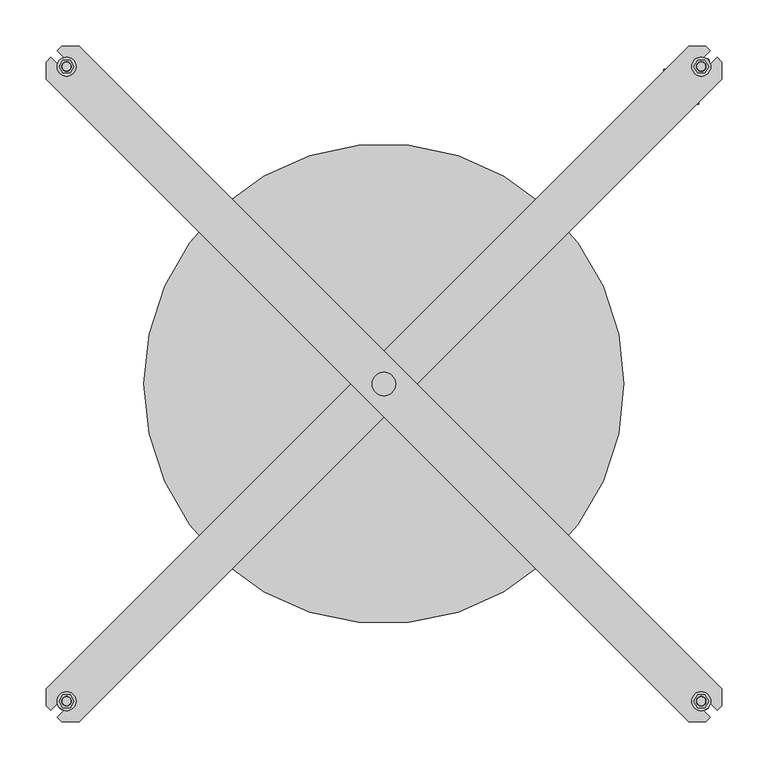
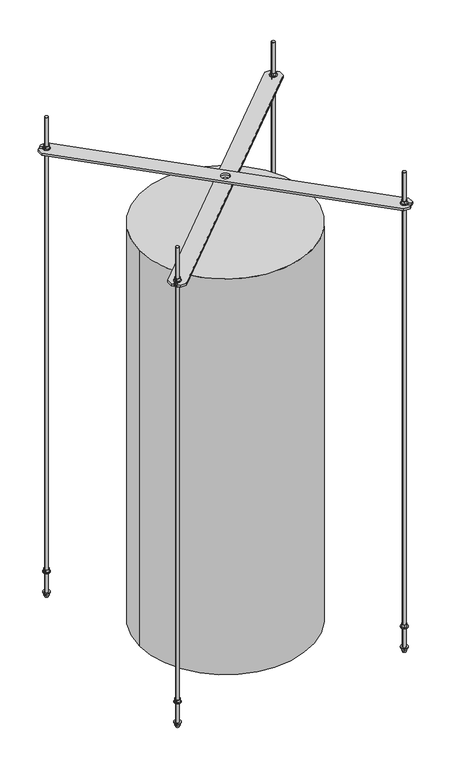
"""IFC4 building model written with IfcOpenShell, lengths in millimetres: proxy geometry, 50 SWHP : #50-SWHP."""

from ifc_helpers import new_model, si_unit, point, frame, frame_2d, origin, origin_2d, place, context, project, spatial, polyline, circle_curve, trimmed, segment, composite_curve, outline, extrude, source, transform, mapped, element, save
from ifc_brep_helpers import plane_surface, cylinder_surface, revolved_surface, advanced_brep


def generic_models_e5ff88b9(model_context):
    return source(origin(), model_context, "Body", "SolidModel", [
        extrude(outline(composite_curve([segment(trimmed(circle_curve(frame_2d((344.3986, 344.3986)), 10.31875), [point((334.07985, 344.3986))], [point((354.71735, 344.3986))], False, "CARTESIAN"), True, "CONTINUOUS"), segment(trimmed(circle_curve(frame_2d((344.3986, 344.3986)), 10.31875), [point((354.71735, 344.3986))], [point((334.07985, 344.3986))], False, "CARTESIAN"), True, "CONTINUOUS")], self_intersect=False), holes=[composite_curve([segment(trimmed(circle_curve(frame_2d((344.3986, 344.3986)), 5.159375), [point((339.239225, 344.3986))], [point((349.557975, 344.3986))], True, "CARTESIAN"), True, "CONTINUOUS"), segment(trimmed(circle_curve(frame_2d((344.3986, 344.3986)), 5.159375), [point((349.557975, 344.3986))], [point((339.239225, 344.3986))], True, "CARTESIAN"), True, "CONTINUOUS")], self_intersect=False)]), frame((0.0, 0.0, 1416.05), z_axis=(0.0, 0.0, 1.0), x_axis=(1.0, 0.0, 0.0)), (0.0, 0.0, 1.0), 1.5875),
        extrude(outline(polyline([(340.42985, 351.2726766), (348.36735, 351.2726766), (352.3361, 344.3986), (348.36735, 337.5245234), (340.42985, 337.5245234), (336.4611, 344.3986), (340.42985, 351.2726766)]), holes=[composite_curve([segment(trimmed(circle_curve(frame_2d((344.3986, 344.3986)), 5.159375), [point((339.239225, 344.3986))], [point((349.557975, 344.3986))], True, "CARTESIAN"), True, "CONTINUOUS"), segment(trimmed(circle_curve(frame_2d((344.3986, 344.3986)), 5.159375), [point((349.557975, 344.3986))], [point((339.239225, 344.3986))], True, "CARTESIAN"), True, "CONTINUOUS")], self_intersect=False)]), frame((0.0, 0.0, 1417.6375), z_axis=(0.0, 0.0, 1.0), x_axis=(1.0, 0.0, 0.0)), (0.0, 0.0, 1.0), 7.9375),
        extrude(outline(composite_curve([segment(trimmed(circle_curve(frame_2d((-344.3986, 344.3986)), 10.31875), [point((-354.71735, 344.3986))], [point((-334.07985, 344.3986))], False, "CARTESIAN"), True, "CONTINUOUS"), segment(trimmed(circle_curve(frame_2d((-344.3986, 344.3986)), 10.31875), [point((-334.07985, 344.3986))], [point((-354.71735, 344.3986))], False, "CARTESIAN"), True, "CONTINUOUS")], self_intersect=False), holes=[composite_curve([segment(trimmed(circle_curve(frame_2d((-344.3986, 344.3986)), 5.159375), [point((-349.557975, 344.3986))], [point((-339.239225, 344.3986))], True, "CARTESIAN"), True, "CONTINUOUS"), segment(trimmed(circle_curve(frame_2d((-344.3986, 344.3986)), 5.159375), [point((-339.239225, 344.3986))], [point((-349.557975, 344.3986))], True, "CARTESIAN"), True, "CONTINUOUS")], self_intersect=False)]), frame((0.0, 0.0, 1422.4), z_axis=(0.0, 0.0, 1.0), x_axis=(1.0, 0.0, 0.0)), (0.0, 0.0, 1.0), 1.5875),
        extrude(outline(polyline([(-348.36735, 351.2726766), (-340.42985, 351.2726766), (-336.4611, 344.3986), (-340.42985, 337.5245234), (-348.36735, 337.5245234), (-352.3361, 344.3986), (-348.36735, 351.2726766)]), holes=[composite_curve([segment(trimmed(circle_curve(frame_2d((-344.3986, 344.3986)), 5.159375), [point((-349.557975, 344.3986))], [point((-339.239225, 344.3986))], True, "CARTESIAN"), True, "CONTINUOUS"), segment(trimmed(circle_curve(frame_2d((-344.3986, 344.3986)), 5.159375), [point((-339.239225, 344.3986))], [point((-349.557975, 344.3986))], True, "CARTESIAN"), True, "CONTINUOUS")], self_intersect=False)]), frame((0.0, 0.0, 1423.9875), z_axis=(0.0, 0.0, 1.0), x_axis=(1.0, 0.0, 0.0)), (0.0, 0.0, 1.0), 7.9375),
        extrude(outline(composite_curve([segment(trimmed(circle_curve(frame_2d((344.3986, 344.3986)), 10.31875), [point((334.07985, 344.3986))], [point((354.71735, 344.3986))], False, "CARTESIAN"), True, "CONTINUOUS"), segment(trimmed(circle_curve(frame_2d((344.3986, 344.3986)), 10.31875), [point((354.71735, 344.3986))], [point((334.07985, 344.3986))], False, "CARTESIAN"), True, "CONTINUOUS")], self_intersect=False), holes=[composite_curve([segment(trimmed(circle_curve(frame_2d((344.3986, 344.3986)), 5.159375), [point((339.239225, 344.3986))], [point((349.557975, 344.3986))], True, "CARTESIAN"), True, "CONTINUOUS"), segment(trimmed(circle_curve(frame_2d((344.3986, 344.3986)), 5.159375), [point((349.557975, 344.3986))], [point((339.239225, 344.3986))], True, "CARTESIAN"), True, "CONTINUOUS")], self_intersect=False)]), frame((0.0, 0.0, 1408.1125), z_axis=(0.0, 0.0, 1.0), x_axis=(1.0, 0.0, 0.0)), (0.0, 0.0, 1.0), 1.5875),
        extrude(outline(polyline([(340.42985, 351.2726766), (348.36735, 351.2726766), (352.3361, 344.3986), (348.36735, 337.5245234), (340.42985, 337.5245234), (336.4611, 344.3986), (340.42985, 351.2726766)]), holes=[composite_curve([segment(trimmed(circle_curve(frame_2d((344.3986, 344.3986)), 5.159375), [point((339.239225, 344.3986))], [point((349.557975, 344.3986))], True, "CARTESIAN"), True, "CONTINUOUS"), segment(trimmed(circle_curve(frame_2d((344.3986, 344.3986)), 5.159375), [point((349.557975, 344.3986))], [point((339.239225, 344.3986))], True, "CARTESIAN"), True, "CONTINUOUS")], self_intersect=False)]), frame((0.0, 0.0, 1400.175), z_axis=(0.0, 0.0, 1.0), x_axis=(1.0, 0.0, 0.0)), (0.0, 0.0, 1.0), 7.9375),
        extrude(outline(composite_curve([segment(trimmed(circle_curve(frame_2d((-344.3986, 344.3986)), 10.31875), [point((-354.71735, 344.3986))], [point((-334.07985, 344.3986))], False, "CARTESIAN"), True, "CONTINUOUS"), segment(trimmed(circle_curve(frame_2d((-344.3986, 344.3986)), 10.31875), [point((-334.07985, 344.3986))], [point((-354.71735, 344.3986))], False, "CARTESIAN"), True, "CONTINUOUS")], self_intersect=False), holes=[composite_curve([segment(trimmed(circle_curve(frame_2d((-344.3986, 344.3986)), 5.159375), [point((-349.557975, 344.3986))], [point((-339.239225, 344.3986))], True, "CARTESIAN"), True, "CONTINUOUS"), segment(trimmed(circle_curve(frame_2d((-344.3986, 344.3986)), 5.159375), [point((-339.239225, 344.3986))], [point((-349.557975, 344.3986))], True, "CARTESIAN"), True, "CONTINUOUS")], self_intersect=False)]), frame((0.0, 0.0, 1414.4625), z_axis=(0.0, 0.0, 1.0), x_axis=(1.0, 0.0, 0.0)), (0.0, 0.0, 1.0), 1.5875),
        extrude(outline(polyline([(-348.36735, 351.2726766), (-340.42985, 351.2726766), (-336.4611, 344.3986), (-340.42985, 337.5245234), (-348.36735, 337.5245234), (-352.3361, 344.3986), (-348.36735, 351.2726766)]), holes=[composite_curve([segment(trimmed(circle_curve(frame_2d((-344.3986, 344.3986)), 5.159375), [point((-349.557975, 344.3986))], [point((-339.239225, 344.3986))], True, "CARTESIAN"), True, "CONTINUOUS"), segment(trimmed(circle_curve(frame_2d((-344.3986, 344.3986)), 5.159375), [point((-339.239225, 344.3986))], [point((-349.557975, 344.3986))], True, "CARTESIAN"), True, "CONTINUOUS")], self_intersect=False)]), frame((0.0, 0.0, 1406.525), z_axis=(0.0, 0.0, 1.0), x_axis=(1.0, 0.0, 0.0)), (0.0, 0.0, 1.0), 7.9375),
        extrude(outline(composite_curve([segment(trimmed(circle_curve(frame_2d((344.3986, -344.3986)), 10.31875), [point((334.07985, -344.3986))], [point((354.71735, -344.3986))], False, "CARTESIAN"), True, "CONTINUOUS"), segment(trimmed(circle_curve(frame_2d((344.3986, -344.3986)), 10.31875), [point((354.71735, -344.3986))], [point((334.07985, -344.3986))], False, "CARTESIAN"), True, "CONTINUOUS")], self_intersect=False), holes=[composite_curve([segment(trimmed(circle_curve(frame_2d((344.3986, -344.3986)), 5.159375), [point((339.239225, -344.3986))], [point((349.557975, -344.3986))], True, "CARTESIAN"), True, "CONTINUOUS"), segment(trimmed(circle_curve(frame_2d((344.3986, -344.3986)), 5.159375), [point((349.557975, -344.3986))], [point((339.239225, -344.3986))], True, "CARTESIAN"), True, "CONTINUOUS")], self_intersect=False)]), frame((0.0, 0.0, 1414.4625), z_axis=(0.0, 0.0, 1.0), x_axis=(1.0, 0.0, 0.0)), (0.0, 0.0, 1.0), 1.5875),
        extrude(outline(polyline([(340.42985, -337.5245234), (348.36735, -337.5245234), (352.3361, -344.3986), (348.36735, -351.2726766), (340.42985, -351.2726766), (336.4611, -344.3986), (340.42985, -337.5245234)]), holes=[composite_curve([segment(trimmed(circle_curve(frame_2d((344.3986, -344.3986)), 5.159375), [point((339.239225, -344.3986))], [point((349.557975, -344.3986))], True, "CARTESIAN"), True, "CONTINUOUS"), segment(trimmed(circle_curve(frame_2d((344.3986, -344.3986)), 5.159375), [point((349.557975, -344.3986))], [point((339.239225, -344.3986))], True, "CARTESIAN"), True, "CONTINUOUS")], self_intersect=False)]), frame((0.0, 0.0, 1406.525), z_axis=(0.0, 0.0, 1.0), x_axis=(1.0, 0.0, 0.0)), (0.0, 0.0, 1.0), 7.9375),
        extrude(outline(composite_curve([segment(trimmed(circle_curve(frame_2d((-344.3986, -344.3986)), 10.31875), [point((-354.71735, -344.3986))], [point((-334.07985, -344.3986))], False, "CARTESIAN"), True, "CONTINUOUS"), segment(trimmed(circle_curve(frame_2d((-344.3986, -344.3986)), 10.31875), [point((-334.07985, -344.3986))], [point((-354.71735, -344.3986))], False, "CARTESIAN"), True, "CONTINUOUS")], self_intersect=False), holes=[composite_curve([segment(trimmed(circle_curve(frame_2d((-344.3986, -344.3986)), 5.159375), [point((-349.557975, -344.3986))], [point((-339.239225, -344.3986))], True, "CARTESIAN"), True, "CONTINUOUS"), segment(trimmed(circle_curve(frame_2d((-344.3986, -344.3986)), 5.159375), [point((-339.239225, -344.3986))], [point((-349.557975, -344.3986))], True, "CARTESIAN"), True, "CONTINUOUS")], self_intersect=False)]), frame((0.0, 0.0, 1408.1125), z_axis=(0.0, 0.0, 1.0), x_axis=(1.0, 0.0, 0.0)), (0.0, 0.0, 1.0), 1.5875),
        extrude(outline(polyline([(-348.36735, -337.5245234), (-340.42985, -337.5245234), (-336.4611, -344.3986), (-340.42985, -351.2726766), (-348.36735, -351.2726766), (-352.3361, -344.3986), (-348.36735, -337.5245234)]), holes=[composite_curve([segment(trimmed(circle_curve(frame_2d((-344.3986, -344.3986)), 5.159375), [point((-349.557975, -344.3986))], [point((-339.239225, -344.3986))], True, "CARTESIAN"), True, "CONTINUOUS"), segment(trimmed(circle_curve(frame_2d((-344.3986, -344.3986)), 5.159375), [point((-339.239225, -344.3986))], [point((-349.557975, -344.3986))], True, "CARTESIAN"), True, "CONTINUOUS")], self_intersect=False)]), frame((0.0, 0.0, 1400.175), z_axis=(0.0, 0.0, 1.0), x_axis=(1.0, 0.0, 0.0)), (0.0, 0.0, 1.0), 7.9375),
        extrude(outline(composite_curve([segment(trimmed(circle_curve(frame_2d((344.3986, -344.3986)), 10.31875), [point((334.07985, -344.3986))], [point((354.71735, -344.3986))], False, "CARTESIAN"), True, "CONTINUOUS"), segment(trimmed(circle_curve(frame_2d((344.3986, -344.3986)), 10.31875), [point((354.71735, -344.3986))], [point((334.07985, -344.3986))], False, "CARTESIAN"), True, "CONTINUOUS")], self_intersect=False), holes=[composite_curve([segment(trimmed(circle_curve(frame_2d((344.3986, -344.3986)), 5.159375), [point((339.239225, -344.3986))], [point((349.557975, -344.3986))], True, "CARTESIAN"), True, "CONTINUOUS"), segment(trimmed(circle_curve(frame_2d((344.3986, -344.3986)), 5.159375), [point((349.557975, -344.3986))], [point((339.239225, -344.3986))], True, "CARTESIAN"), True, "CONTINUOUS")], self_intersect=False)]), frame((0.0, 0.0, 1422.4), z_axis=(0.0, 0.0, 1.0), x_axis=(1.0, 0.0, 0.0)), (0.0, 0.0, 1.0), 1.5875),
        extrude(outline(polyline([(340.42985, -337.5245234), (348.36735, -337.5245234), (352.3361, -344.3986), (348.36735, -351.2726766), (340.42985, -351.2726766), (336.4611, -344.3986), (340.42985, -337.5245234)]), holes=[composite_curve([segment(trimmed(circle_curve(frame_2d((344.3986, -344.3986)), 5.159375), [point((339.239225, -344.3986))], [point((349.557975, -344.3986))], True, "CARTESIAN"), True, "CONTINUOUS"), segment(trimmed(circle_curve(frame_2d((344.3986, -344.3986)), 5.159375), [point((349.557975, -344.3986))], [point((339.239225, -344.3986))], True, "CARTESIAN"), True, "CONTINUOUS")], self_intersect=False)]), frame((0.0, 0.0, 1423.9875), z_axis=(0.0, 0.0, 1.0), x_axis=(1.0, 0.0, 0.0)), (0.0, 0.0, 1.0), 7.9375),
        extrude(outline(composite_curve([segment(trimmed(circle_curve(frame_2d((-344.3986, -344.3986)), 10.31875), [point((-354.71735, -344.3986))], [point((-334.07985, -344.3986))], False, "CARTESIAN"), True, "CONTINUOUS"), segment(trimmed(circle_curve(frame_2d((-344.3986, -344.3986)), 10.31875), [point((-334.07985, -344.3986))], [point((-354.71735, -344.3986))], False, "CARTESIAN"), True, "CONTINUOUS")], self_intersect=False), holes=[composite_curve([segment(trimmed(circle_curve(frame_2d((-344.3986, -344.3986)), 5.159375), [point((-349.557975, -344.3986))], [point((-339.239225, -344.3986))], True, "CARTESIAN"), True, "CONTINUOUS"), segment(trimmed(circle_curve(frame_2d((-344.3986, -344.3986)), 5.159375), [point((-339.239225, -344.3986))], [point((-349.557975, -344.3986))], True, "CARTESIAN"), True, "CONTINUOUS")], self_intersect=False)]), frame((0.0, 0.0, 1416.05), z_axis=(0.0, 0.0, 1.0), x_axis=(1.0, 0.0, 0.0)), (0.0, 0.0, 1.0), 1.5875),
        extrude(outline(polyline([(-348.36735, -337.5245234), (-340.42985, -337.5245234), (-336.4611, -344.3986), (-340.42985, -351.2726766), (-348.36735, -351.2726766), (-352.3361, -344.3986), (-348.36735, -337.5245234)]), holes=[composite_curve([segment(trimmed(circle_curve(frame_2d((-344.3986, -344.3986)), 5.159375), [point((-349.557975, -344.3986))], [point((-339.239225, -344.3986))], True, "CARTESIAN"), True, "CONTINUOUS"), segment(trimmed(circle_curve(frame_2d((-344.3986, -344.3986)), 5.159375), [point((-339.239225, -344.3986))], [point((-349.557975, -344.3986))], True, "CARTESIAN"), True, "CONTINUOUS")], self_intersect=False)]), frame((0.0, 0.0, 1417.6375), z_axis=(0.0, 0.0, 1.0), x_axis=(1.0, 0.0, 0.0)), (0.0, 0.0, 1.0), 7.9375),
        extrude(outline(composite_curve([segment(trimmed(circle_curve(frame_2d((-344.3986, 344.3986)), 10.31875), [point((-354.71735, 344.3986))], [point((-334.07985, 344.3986))], False, "CARTESIAN"), True, "CONTINUOUS"), segment(trimmed(circle_curve(frame_2d((-344.3986, 344.3986)), 10.31875), [point((-334.07985, 344.3986))], [point((-354.71735, 344.3986))], False, "CARTESIAN"), True, "CONTINUOUS")], self_intersect=False), holes=[composite_curve([segment(trimmed(circle_curve(frame_2d((-344.3986, 344.3986)), 5.159375), [point((-349.557975, 344.3986))], [point((-339.239225, 344.3986))], True, "CARTESIAN"), True, "CONTINUOUS"), segment(trimmed(circle_curve(frame_2d((-344.3986, 344.3986)), 5.159375), [point((-339.239225, 344.3986))], [point((-349.557975, 344.3986))], True, "CARTESIAN"), True, "CONTINUOUS")], self_intersect=False)]), frame((0.0, 0.0, -1.5875), z_axis=(0.0, 0.0, 1.0), x_axis=(1.0, 0.0, 0.0)), (0.0, 0.0, 1.0), 1.5875),
        extrude(outline(polyline([(-348.36735, 351.2726766), (-340.42985, 351.2726766), (-336.4611, 344.3986), (-340.42985, 337.5245234), (-348.36735, 337.5245234), (-352.3361, 344.3986), (-348.36735, 351.2726766)]), holes=[composite_curve([segment(trimmed(circle_curve(frame_2d((-344.3986, 344.3986)), 5.159375), [point((-349.557975, 344.3986))], [point((-339.239225, 344.3986))], True, "CARTESIAN"), True, "CONTINUOUS"), segment(trimmed(circle_curve(frame_2d((-344.3986, 344.3986)), 5.159375), [point((-339.239225, 344.3986))], [point((-349.557975, 344.3986))], True, "CARTESIAN"), True, "CONTINUOUS")], self_intersect=False)]), frame((0.0, 0.0, -9.525), z_axis=(0.0, 0.0, 1.0), x_axis=(1.0, 0.0, 0.0)), (0.0, 0.0, 1.0), 7.9375),
        extrude(outline(composite_curve([segment(trimmed(circle_curve(frame_2d((344.3986, 344.3986)), 10.31875), [point((334.07985, 344.3986))], [point((354.71735, 344.3986))], False, "CARTESIAN"), True, "CONTINUOUS"), segment(trimmed(circle_curve(frame_2d((344.3986, 344.3986)), 10.31875), [point((354.71735, 344.3986))], [point((334.07985, 344.3986))], False, "CARTESIAN"), True, "CONTINUOUS")], self_intersect=False), holes=[composite_curve([segment(trimmed(circle_curve(frame_2d((344.3986, 344.3986)), 5.159375), [point((339.239225, 344.3986))], [point((349.557975, 344.3986))], True, "CARTESIAN"), True, "CONTINUOUS"), segment(trimmed(circle_curve(frame_2d((344.3986, 344.3986)), 5.159375), [point((349.557975, 344.3986))], [point((339.239225, 344.3986))], True, "CARTESIAN"), True, "CONTINUOUS")], self_intersect=False)]), frame((0.0, 0.0, -1.5875), z_axis=(0.0, 0.0, 1.0), x_axis=(1.0, 0.0, 0.0)), (0.0, 0.0, 1.0), 1.5875),
        extrude(outline(polyline([(340.42985, 351.2726766), (348.36735, 351.2726766), (352.3361, 344.3986), (348.36735, 337.5245234), (340.42985, 337.5245234), (336.4611, 344.3986), (340.42985, 351.2726766)]), holes=[composite_curve([segment(trimmed(circle_curve(frame_2d((344.3986, 344.3986)), 5.159375), [point((339.239225, 344.3986))], [point((349.557975, 344.3986))], True, "CARTESIAN"), True, "CONTINUOUS"), segment(trimmed(circle_curve(frame_2d((344.3986, 344.3986)), 5.159375), [point((349.557975, 344.3986))], [point((339.239225, 344.3986))], True, "CARTESIAN"), True, "CONTINUOUS")], self_intersect=False)]), frame((0.0, 0.0, -9.525), z_axis=(0.0, 0.0, 1.0), x_axis=(1.0, 0.0, 0.0)), (0.0, 0.0, 1.0), 7.9375),
        extrude(outline(composite_curve([segment(trimmed(circle_curve(frame_2d((-344.3986, 344.3986)), 10.31875), [point((-354.71735, 344.3986))], [point((-334.07985, 344.3986))], False, "CARTESIAN"), True, "CONTINUOUS"), segment(trimmed(circle_curve(frame_2d((-344.3986, 344.3986)), 10.31875), [point((-334.07985, 344.3986))], [point((-354.71735, 344.3986))], False, "CARTESIAN"), True, "CONTINUOUS")], self_intersect=False), holes=[composite_curve([segment(trimmed(circle_curve(frame_2d((-344.3986, 344.3986)), 5.159375), [point((-349.557975, 344.3986))], [point((-339.239225, 344.3986))], True, "CARTESIAN"), True, "CONTINUOUS"), segment(trimmed(circle_curve(frame_2d((-344.3986, 344.3986)), 5.159375), [point((-339.239225, 344.3986))], [point((-349.557975, 344.3986))], True, "CARTESIAN"), True, "CONTINUOUS")], self_intersect=False)]), frame((0.0, 0.0, 63.5), z_axis=(0.0, 0.0, 1.0), x_axis=(1.0, 0.0, 0.0)), (0.0, 0.0, 1.0), 1.5875),
        extrude(outline(polyline([(-348.36735, 351.2726766), (-340.42985, 351.2726766), (-336.4611, 344.3986), (-340.42985, 337.5245234), (-348.36735, 337.5245234), (-352.3361, 344.3986), (-348.36735, 351.2726766)]), holes=[composite_curve([segment(trimmed(circle_curve(frame_2d((-344.3986, 344.3986)), 5.159375), [point((-349.557975, 344.3986))], [point((-339.239225, 344.3986))], True, "CARTESIAN"), True, "CONTINUOUS"), segment(trimmed(circle_curve(frame_2d((-344.3986, 344.3986)), 5.159375), [point((-339.239225, 344.3986))], [point((-349.557975, 344.3986))], True, "CARTESIAN"), True, "CONTINUOUS")], self_intersect=False)]), frame((0.0, 0.0, 65.0875), z_axis=(0.0, 0.0, 1.0), x_axis=(1.0, 0.0, 0.0)), (0.0, 0.0, 1.0), 7.9375),
        extrude(outline(composite_curve([segment(trimmed(circle_curve(frame_2d((344.3986, 344.3986)), 10.31875), [point((334.07985, 344.3986))], [point((354.71735, 344.3986))], False, "CARTESIAN"), True, "CONTINUOUS"), segment(trimmed(circle_curve(frame_2d((344.3986, 344.3986)), 10.31875), [point((354.71735, 344.3986))], [point((334.07985, 344.3986))], False, "CARTESIAN"), True, "CONTINUOUS")], self_intersect=False), holes=[composite_curve([segment(trimmed(circle_curve(frame_2d((344.3986, 344.3986)), 5.159375), [point((339.239225, 344.3986))], [point((349.557975, 344.3986))], True, "CARTESIAN"), True, "CONTINUOUS"), segment(trimmed(circle_curve(frame_2d((344.3986, 344.3986)), 5.159375), [point((349.557975, 344.3986))], [point((339.239225, 344.3986))], True, "CARTESIAN"), True, "CONTINUOUS")], self_intersect=False)]), frame((0.0, 0.0, 63.5), z_axis=(0.0, 0.0, 1.0), x_axis=(1.0, 0.0, 0.0)), (0.0, 0.0, 1.0), 1.5875),
        extrude(outline(polyline([(340.42985, 351.2726766), (348.36735, 351.2726766), (352.3361, 344.3986), (348.36735, 337.5245234), (340.42985, 337.5245234), (336.4611, 344.3986), (340.42985, 351.2726766)]), holes=[composite_curve([segment(trimmed(circle_curve(frame_2d((344.3986, 344.3986)), 5.159375), [point((339.239225, 344.3986))], [point((349.557975, 344.3986))], True, "CARTESIAN"), True, "CONTINUOUS"), segment(trimmed(circle_curve(frame_2d((344.3986, 344.3986)), 5.159375), [point((349.557975, 344.3986))], [point((339.239225, 344.3986))], True, "CARTESIAN"), True, "CONTINUOUS")], self_intersect=False)]), frame((0.0, 0.0, 65.0875), z_axis=(0.0, 0.0, 1.0), x_axis=(1.0, 0.0, 0.0)), (0.0, 0.0, 1.0), 7.9375),
        extrude(outline(composite_curve([segment(trimmed(circle_curve(frame_2d((344.3986, -344.3986)), 10.31875), [point((334.07985, -344.3986))], [point((354.71735, -344.3986))], False, "CARTESIAN"), True, "CONTINUOUS"), segment(trimmed(circle_curve(frame_2d((344.3986, -344.3986)), 10.31875), [point((354.71735, -344.3986))], [point((334.07985, -344.3986))], False, "CARTESIAN"), True, "CONTINUOUS")], self_intersect=False), holes=[composite_curve([segment(trimmed(circle_curve(frame_2d((344.3986, -344.3986)), 5.159375), [point((339.239225, -344.3986))], [point((349.557975, -344.3986))], True, "CARTESIAN"), True, "CONTINUOUS"), segment(trimmed(circle_curve(frame_2d((344.3986, -344.3986)), 5.159375), [point((349.557975, -344.3986))], [point((339.239225, -344.3986))], True, "CARTESIAN"), True, "CONTINUOUS")], self_intersect=False)]), frame((0.0, 0.0, -1.5875), z_axis=(0.0, 0.0, 1.0), x_axis=(1.0, 0.0, 0.0)), (0.0, 0.0, 1.0), 1.5875),
        extrude(outline(polyline([(340.42985, -337.5245234), (348.36735, -337.5245234), (352.3361, -344.3986), (348.36735, -351.2726766), (340.42985, -351.2726766), (336.4611, -344.3986), (340.42985, -337.5245234)]), holes=[composite_curve([segment(trimmed(circle_curve(frame_2d((344.3986, -344.3986)), 5.159375), [point((339.239225, -344.3986))], [point((349.557975, -344.3986))], True, "CARTESIAN"), True, "CONTINUOUS"), segment(trimmed(circle_curve(frame_2d((344.3986, -344.3986)), 5.159375), [point((349.557975, -344.3986))], [point((339.239225, -344.3986))], True, "CARTESIAN"), True, "CONTINUOUS")], self_intersect=False)]), frame((0.0, 0.0, -9.525), z_axis=(0.0, 0.0, 1.0), x_axis=(1.0, 0.0, 0.0)), (0.0, 0.0, 1.0), 7.9375),
        extrude(outline(composite_curve([segment(trimmed(circle_curve(frame_2d((344.3986, -344.3986)), 10.31875), [point((334.07985, -344.3986))], [point((354.71735, -344.3986))], False, "CARTESIAN"), True, "CONTINUOUS"), segment(trimmed(circle_curve(frame_2d((344.3986, -344.3986)), 10.31875), [point((354.71735, -344.3986))], [point((334.07985, -344.3986))], False, "CARTESIAN"), True, "CONTINUOUS")], self_intersect=False), holes=[composite_curve([segment(trimmed(circle_curve(frame_2d((344.3986, -344.3986)), 5.159375), [point((339.239225, -344.3986))], [point((349.557975, -344.3986))], True, "CARTESIAN"), True, "CONTINUOUS"), segment(trimmed(circle_curve(frame_2d((344.3986, -344.3986)), 5.159375), [point((349.557975, -344.3986))], [point((339.239225, -344.3986))], True, "CARTESIAN"), True, "CONTINUOUS")], self_intersect=False)]), frame((0.0, 0.0, 63.5), z_axis=(0.0, 0.0, 1.0), x_axis=(1.0, 0.0, 0.0)), (0.0, 0.0, 1.0), 1.5875),
        extrude(outline(polyline([(340.42985, -337.5245234), (348.36735, -337.5245234), (352.3361, -344.3986), (348.36735, -351.2726766), (340.42985, -351.2726766), (336.4611, -344.3986), (340.42985, -337.5245234)]), holes=[composite_curve([segment(trimmed(circle_curve(frame_2d((344.3986, -344.3986)), 5.159375), [point((339.239225, -344.3986))], [point((349.557975, -344.3986))], True, "CARTESIAN"), True, "CONTINUOUS"), segment(trimmed(circle_curve(frame_2d((344.3986, -344.3986)), 5.159375), [point((349.557975, -344.3986))], [point((339.239225, -344.3986))], True, "CARTESIAN"), True, "CONTINUOUS")], self_intersect=False)]), frame((0.0, 0.0, 65.0875), z_axis=(0.0, 0.0, 1.0), x_axis=(1.0, 0.0, 0.0)), (0.0, 0.0, 1.0), 7.9375),
        extrude(outline(composite_curve([segment(trimmed(circle_curve(frame_2d((-344.3986, -344.3986)), 10.31875), [point((-354.71735, -344.3986))], [point((-334.07985, -344.3986))], False, "CARTESIAN"), True, "CONTINUOUS"), segment(trimmed(circle_curve(frame_2d((-344.3986, -344.3986)), 10.31875), [point((-334.07985, -344.3986))], [point((-354.71735, -344.3986))], False, "CARTESIAN"), True, "CONTINUOUS")], self_intersect=False), holes=[composite_curve([segment(trimmed(circle_curve(frame_2d((-344.3986, -344.3986)), 5.159375), [point((-349.557975, -344.3986))], [point((-339.239225, -344.3986))], True, "CARTESIAN"), True, "CONTINUOUS"), segment(trimmed(circle_curve(frame_2d((-344.3986, -344.3986)), 5.159375), [point((-339.239225, -344.3986))], [point((-349.557975, -344.3986))], True, "CARTESIAN"), True, "CONTINUOUS")], self_intersect=False)]), frame((0.0, 0.0, 63.5), z_axis=(0.0, 0.0, 1.0), x_axis=(1.0, 0.0, 0.0)), (0.0, 0.0, 1.0), 1.5875),
        extrude(outline(polyline([(-348.36735, -337.5245234), (-340.42985, -337.5245234), (-336.4611, -344.3986), (-340.42985, -351.2726766), (-348.36735, -351.2726766), (-352.3361, -344.3986), (-348.36735, -337.5245234)]), holes=[composite_curve([segment(trimmed(circle_curve(frame_2d((-344.3986, -344.3986)), 5.159375), [point((-349.557975, -344.3986))], [point((-339.239225, -344.3986))], True, "CARTESIAN"), True, "CONTINUOUS"), segment(trimmed(circle_curve(frame_2d((-344.3986, -344.3986)), 5.159375), [point((-339.239225, -344.3986))], [point((-349.557975, -344.3986))], True, "CARTESIAN"), True, "CONTINUOUS")], self_intersect=False)]), frame((0.0, 0.0, 65.0875), z_axis=(0.0, 0.0, 1.0), x_axis=(1.0, 0.0, 0.0)), (0.0, 0.0, 1.0), 7.9375),
        extrude(outline(composite_curve([segment(trimmed(circle_curve(frame_2d((-344.3986, -344.3986)), 10.31875), [point((-354.71735, -344.3986))], [point((-334.07985, -344.3986))], False, "CARTESIAN"), True, "CONTINUOUS"), segment(trimmed(circle_curve(frame_2d((-344.3986, -344.3986)), 10.31875), [point((-334.07985, -344.3986))], [point((-354.71735, -344.3986))], False, "CARTESIAN"), True, "CONTINUOUS")], self_intersect=False), holes=[composite_curve([segment(trimmed(circle_curve(frame_2d((-344.3986, -344.3986)), 5.159375), [point((-349.557975, -344.3986))], [point((-339.239225, -344.3986))], True, "CARTESIAN"), True, "CONTINUOUS"), segment(trimmed(circle_curve(frame_2d((-344.3986, -344.3986)), 5.159375), [point((-339.239225, -344.3986))], [point((-349.557975, -344.3986))], True, "CARTESIAN"), True, "CONTINUOUS")], self_intersect=False)]), frame((0.0, 0.0, -1.5875), z_axis=(0.0, 0.0, 1.0), x_axis=(1.0, 0.0, 0.0)), (0.0, 0.0, 1.0), 1.5875),
        extrude(outline(polyline([(-348.36735, -337.5245234), (-340.42985, -337.5245234), (-336.4611, -344.3986), (-340.42985, -351.2726766), (-348.36735, -351.2726766), (-352.3361, -344.3986), (-348.36735, -337.5245234)]), holes=[composite_curve([segment(trimmed(circle_curve(frame_2d((-344.3986, -344.3986)), 5.159375), [point((-349.557975, -344.3986))], [point((-339.239225, -344.3986))], True, "CARTESIAN"), True, "CONTINUOUS"), segment(trimmed(circle_curve(frame_2d((-344.3986, -344.3986)), 5.159375), [point((-339.239225, -344.3986))], [point((-349.557975, -344.3986))], True, "CARTESIAN"), True, "CONTINUOUS")], self_intersect=False)]), frame((0.0, 0.0, -9.525), z_axis=(0.0, 0.0, 1.0), x_axis=(1.0, 0.0, 0.0)), (0.0, 0.0, 1.0), 7.9375),
        extrude(outline(polyline([(-366.6236, -330.7234109), (330.7234103, 366.6236), (349.3413509, 366.6236), (354.3369596, 361.6279913), (337.4989793, 344.7900111), (344.7900111, 337.4989793), (361.6279913, 354.3369596), (366.6236, 349.3413509), (366.6236, 330.7234109), (-330.7234103, -366.6236), (-349.3413509, -366.6236), (-354.3369596, -361.6279913), (-337.4989793, -344.7900111), (-344.7900111, -337.4989793), (-361.6279913, -354.3369596), (-366.6236, -349.3413509), (-366.6236, -330.7234109)]), holes=[composite_curve([segment(trimmed(circle_curve(origin_2d(), 12.7), [point((12.7, 0.0))], [point((-12.7, 0.0))], True, "CARTESIAN"), True, "CONTINUOUS"), segment(trimmed(circle_curve(origin_2d(), 12.7), [point((-12.7, 0.0))], [point((12.7, 0.0))], True, "CARTESIAN"), True, "CONTINUOUS")], self_intersect=False)]), frame((0.0, 0.0, 1409.7), z_axis=(0.0, 0.0, 1.0), x_axis=(1.0, 0.0, 0.0)), (0.0, 0.0, 1.0), 6.35),
        extrude(outline(polyline([(366.6236, -330.7234109), (366.6236, -349.3413509), (361.6279913, -354.3369596), (344.7900111, -337.4989793), (337.4989793, -344.7900111), (354.3369596, -361.6279913), (349.3413509, -366.6236), (330.7234103, -366.6236), (-366.6236, 330.7234109), (-366.6236, 349.3413509), (-361.6279913, 354.3369596), (-344.7900111, 337.4989793), (-337.4989793, 344.7900111), (-354.3369596, 361.6279913), (-349.3413509, 366.6236), (-330.7234103, 366.6236), (366.6236, -330.7234109)]), holes=[composite_curve([segment(trimmed(circle_curve(origin_2d(), 12.7), [point((-12.7, 0.0))], [point((12.7, 0.0))], True, "CARTESIAN"), True, "CONTINUOUS"), segment(trimmed(circle_curve(origin_2d(), 12.7), [point((12.7, 0.0))], [point((-12.7, 0.0))], True, "CARTESIAN"), True, "CONTINUOUS")], self_intersect=False)]), frame((0.0, 0.0, 1416.05), z_axis=(0.0, 0.0, 1.0), x_axis=(1.0, 0.0, 0.0)), (0.0, 0.0, 1.0), 6.35),
        extrude(outline(composite_curve([segment(trimmed(circle_curve(origin_2d(), 260.35), [point((-260.35, 0.0))], [point((260.35, 0.0))], False, "CARTESIAN"), True, "CONTINUOUS"), segment(trimmed(circle_curve(origin_2d(), 260.35), [point((260.35, 0.0))], [point((-260.35, 0.0))], False, "CARTESIAN"), True, "CONTINUOUS")], self_intersect=False)), frame((0.0, 0.0, 3.175), z_axis=(0.0, 0.0, 1.0), x_axis=(1.0, 0.0, 0.0)), (0.0, 0.0, 1.0), 1270.0),
        extrude(outline(composite_curve([segment(trimmed(circle_curve(frame_2d((344.3986, 344.3986)), 4.7625), [point((339.6361, 344.3986))], [point((349.1611, 344.3986))], False, "CARTESIAN"), True, "CONTINUOUS"), segment(trimmed(circle_curve(frame_2d((344.3986, 344.3986)), 4.7625), [point((349.1611, 344.3986))], [point((339.6361, 344.3986))], False, "CARTESIAN"), True, "CONTINUOUS")], self_intersect=False)), frame((0.0, 0.0, -15.875), z_axis=(0.0, 0.0, 1.0), x_axis=(1.0, 0.0, 0.0)), (0.0, 0.0, 1.0), 1539.875),
        extrude(outline(composite_curve([segment(trimmed(circle_curve(frame_2d((-344.3986, 344.3986)), 4.7625), [point((-349.1611, 344.3986))], [point((-339.6361, 344.3986))], False, "CARTESIAN"), True, "CONTINUOUS"), segment(trimmed(circle_curve(frame_2d((-344.3986, 344.3986)), 4.7625), [point((-339.6361, 344.3986))], [point((-349.1611, 344.3986))], False, "CARTESIAN"), True, "CONTINUOUS")], self_intersect=False)), frame((0.0, 0.0, -15.875), z_axis=(0.0, 0.0, 1.0), x_axis=(1.0, 0.0, 0.0)), (0.0, 0.0, 1.0), 1539.875),
        extrude(outline(composite_curve([segment(trimmed(circle_curve(frame_2d((344.3986, -344.3986)), 4.7625), [point((339.6361, -344.3986))], [point((349.1611, -344.3986))], False, "CARTESIAN"), True, "CONTINUOUS"), segment(trimmed(circle_curve(frame_2d((344.3986, -344.3986)), 4.7625), [point((349.1611, -344.3986))], [point((339.6361, -344.3986))], False, "CARTESIAN"), True, "CONTINUOUS")], self_intersect=False)), frame((0.0, 0.0, -15.875), z_axis=(0.0, 0.0, 1.0), x_axis=(1.0, 0.0, 0.0)), (0.0, 0.0, 1.0), 1539.875),
        extrude(outline(composite_curve([segment(trimmed(circle_curve(frame_2d((-344.3986, -344.3986)), 4.7625), [point((-349.1611, -344.3986))], [point((-339.6361, -344.3986))], False, "CARTESIAN"), True, "CONTINUOUS"), segment(trimmed(circle_curve(frame_2d((-344.3986, -344.3986)), 4.7625), [point((-339.6361, -344.3986))], [point((-349.1611, -344.3986))], False, "CARTESIAN"), True, "CONTINUOUS")], self_intersect=False)), frame((0.0, 0.0, -15.875), z_axis=(0.0, 0.0, 1.0), x_axis=(1.0, 0.0, 0.0)), (0.0, 0.0, 1.0), 1539.875),
        advanced_brep(
        [(303.7332, 341.7316, 63.5), (303.7332, 339.725, 63.5), (334.8736, 339.725, 63.5), (337.6422, 342.4936, 63.5), (337.6422, 350.393, 63.5), (338.4042, 351.155, 63.5), (350.393, 351.155, 63.5), (351.155, 350.393, 63.5), (351.155, 338.4042, 63.5), (350.393, 337.6422, 63.5), (342.4936, 337.6422, 63.5), (339.725, 334.8736, 63.5), (339.725, 303.7332, 63.5), (341.7316, 303.7332, 63.5), (341.7316, 334.8736, 63.5), (342.4936, 335.6356, 63.5), (350.393, 335.6356, 63.5), (353.1616, 338.4042, 63.5), (353.1616, 350.393, 63.5), (350.393, 353.1616, 63.5), (338.4042, 353.1616, 63.5), (335.6356, 350.393, 63.5), (335.6356, 342.4936, 63.5), (334.8736, 341.7316, 63.5), (303.7332, 341.7316, 0.0), (334.8736, 341.7316, 0.0), (335.6356, 342.4936, 0.0), (335.6356, 350.393, 0.0), (338.4042, 353.1616, 0.0), (350.393, 353.1616, 0.0), (353.1616, 350.393, 0.0), (353.1616, 338.4042, 0.0), (350.393, 335.6356, 0.0), (342.4936, 335.6356, 0.0), (341.7316, 334.8736, 0.0), (341.7316, 303.7332, 0.0), (339.725, 303.7332, 0.0), (339.725, 334.8736, 0.0), (342.4936, 337.6422, 0.0), (350.393, 337.6422, 0.0), (351.155, 338.4042, 0.0), (351.155, 350.393, 0.0), (350.393, 351.155, 0.0), (338.4042, 351.155, 0.0), (337.6422, 350.393, 0.0), (337.6422, 342.4936, 0.0), (334.8736, 339.725, 0.0), (303.7332, 339.725, 0.0), (321.0687, 339.725, 25.4), (313.9313, 339.725, 25.4), (321.0687, 339.725, 47.625), (313.9313, 339.725, 47.625), (339.725, 313.9313, 47.625), (339.725, 321.0687, 47.625), (339.725, 313.9313, 25.4), (339.725, 321.0687, 25.4), (341.7316, 321.0687, 47.625), (341.7316, 313.9313, 47.625), (341.7316, 321.0687, 25.4), (341.7316, 313.9313, 25.4), (313.9313, 341.7316, 25.4), (321.0687, 341.7316, 25.4), (313.9313, 341.7316, 47.625), (321.0687, 341.7316, 47.625)],
        [
            (0, 1),
            (1, 2),
            (2, 3, circle_curve(frame((334.8736, 342.4936, 63.5), z_axis=(0.0, 0.0, 1.0), x_axis=(1.0, 0.0, 0.0)), 2.7686)),
            (3, 4),
            (4, 5, circle_curve(frame((338.4042, 350.393, 63.5), z_axis=(0.0, 0.0, -1.0), x_axis=(1.0, 0.0, 0.0)), 0.762)),
            (5, 6),
            (6, 7, circle_curve(frame((350.393, 350.393, 63.5), z_axis=(0.0, 0.0, -1.0), x_axis=(1.0, 0.0, 0.0)), 0.762)),
            (7, 8),
            (8, 9, circle_curve(frame((350.393, 338.4042, 63.5), z_axis=(0.0, 0.0, -1.0), x_axis=(1.0, 0.0, 0.0)), 0.762)),
            (9, 10),
            (10, 11, circle_curve(frame((342.4936, 334.8736, 63.5), z_axis=(0.0, 0.0, 1.0), x_axis=(1.0, 0.0, 0.0)), 2.7686)),
            (11, 12),
            (12, 13),
            (13, 14),
            (14, 15, circle_curve(frame((342.4936, 334.8736, 63.5), z_axis=(0.0, 0.0, -1.0), x_axis=(1.0, 0.0, 0.0)), 0.762)),
            (15, 16),
            (16, 17, circle_curve(frame((350.393, 338.4042, 63.5), z_axis=(0.0, 0.0, 1.0), x_axis=(1.0, 0.0, 0.0)), 2.7686)),
            (17, 18),
            (18, 19, circle_curve(frame((350.393, 350.393, 63.5), z_axis=(0.0, 0.0, 1.0), x_axis=(1.0, 0.0, 0.0)), 2.7686)),
            (19, 20),
            (20, 21, circle_curve(frame((338.4042, 350.393, 63.5), z_axis=(0.0, 0.0, 1.0), x_axis=(1.0, 0.0, 0.0)), 2.7686)),
            (21, 22),
            (22, 23, circle_curve(frame((334.8736, 342.4936, 63.5), z_axis=(0.0, 0.0, -1.0), x_axis=(1.0, 0.0, 0.0)), 0.762)),
            (23, 0),
            (24, 25),
            (25, 26, circle_curve(frame((334.8736, 342.4936, 0.0), z_axis=(0.0, 0.0, 1.0), x_axis=(1.0, 0.0, 0.0)), 0.762)),
            (26, 27),
            (27, 28, circle_curve(frame((338.4042, 350.393, 0.0), z_axis=(0.0, 0.0, -1.0), x_axis=(1.0, 0.0, 0.0)), 2.7686)),
            (28, 29),
            (29, 30, circle_curve(frame((350.393, 350.393, 0.0), z_axis=(0.0, 0.0, -1.0), x_axis=(1.0, 0.0, 0.0)), 2.7686)),
            (30, 31),
            (31, 32, circle_curve(frame((350.393, 338.4042, 0.0), z_axis=(0.0, 0.0, -1.0), x_axis=(1.0, 0.0, 0.0)), 2.7686)),
            (32, 33),
            (33, 34, circle_curve(frame((342.4936, 334.8736, 0.0), z_axis=(0.0, 0.0, 1.0), x_axis=(1.0, 0.0, 0.0)), 0.762)),
            (34, 35),
            (35, 36),
            (36, 37),
            (37, 38, circle_curve(frame((342.4936, 334.8736, 0.0), z_axis=(0.0, 0.0, -1.0), x_axis=(1.0, 0.0, 0.0)), 2.7686)),
            (38, 39),
            (39, 40, circle_curve(frame((350.393, 338.4042, 0.0), z_axis=(0.0, 0.0, 1.0), x_axis=(1.0, 0.0, 0.0)), 0.762)),
            (40, 41),
            (41, 42, circle_curve(frame((350.393, 350.393, 0.0), z_axis=(0.0, 0.0, 1.0), x_axis=(1.0, 0.0, 0.0)), 0.762)),
            (42, 43),
            (43, 44, circle_curve(frame((338.4042, 350.393, 0.0), z_axis=(0.0, 0.0, 1.0), x_axis=(1.0, 0.0, 0.0)), 0.762)),
            (44, 45),
            (45, 46, circle_curve(frame((334.8736, 342.4936, 0.0), z_axis=(0.0, 0.0, -1.0), x_axis=(1.0, 0.0, 0.0)), 2.7686)),
            (46, 47),
            (47, 24),
            (0, 24),
            (47, 1),
            (46, 2),
            (48, 49, circle_curve(frame((317.5, 339.725, 25.4), z_axis=(0.0, 1.0, 0.0), x_axis=(-1.0, 0.0, 0.0)), 3.5687)),
            (49, 48, circle_curve(frame((317.5, 339.725, 25.4), z_axis=(0.0, 1.0, 0.0), x_axis=(-1.0, 0.0, 0.0)), 3.5687)),
            (50, 51, circle_curve(frame((317.5, 339.725, 47.625), z_axis=(0.0, 1.0, 0.0), x_axis=(-1.0, 0.0, 0.0)), 3.5687)),
            (51, 50, circle_curve(frame((317.5, 339.725, 47.625), z_axis=(0.0, 1.0, 0.0), x_axis=(-1.0, 0.0, 0.0)), 3.5687)),
            (45, 3),
            (44, 4),
            (43, 5),
            (42, 6),
            (41, 7),
            (40, 8),
            (39, 9),
            (38, 10),
            (37, 11),
            (36, 12),
            (52, 53, circle_curve(frame((339.725, 317.5, 47.625), z_axis=(1.0, 0.0, 0.0), x_axis=(0.0, -1.0, 0.0)), 3.5687)),
            (53, 52, circle_curve(frame((339.725, 317.5, 47.625), z_axis=(1.0, 0.0, 0.0), x_axis=(0.0, -1.0, 0.0)), 3.5687)),
            (54, 55, circle_curve(frame((339.725, 317.5, 25.4), z_axis=(1.0, 0.0, 0.0), x_axis=(0.0, -1.0, 0.0)), 3.5687)),
            (55, 54, circle_curve(frame((339.725, 317.5, 25.4), z_axis=(1.0, 0.0, 0.0), x_axis=(0.0, -1.0, 0.0)), 3.5687)),
            (35, 13),
            (34, 14),
            (56, 57, circle_curve(frame((341.7316, 317.5, 47.625), z_axis=(-1.0, 0.0, 0.0), x_axis=(0.0, -1.0, 0.0)), 3.5687)),
            (57, 56, circle_curve(frame((341.7316, 317.5, 47.625), z_axis=(-1.0, 0.0, 0.0), x_axis=(0.0, -1.0, 0.0)), 3.5687)),
            (58, 59, circle_curve(frame((341.7316, 317.5, 25.4), z_axis=(-1.0, 0.0, 0.0), x_axis=(0.0, -1.0, 0.0)), 3.5687)),
            (59, 58, circle_curve(frame((341.7316, 317.5, 25.4), z_axis=(-1.0, 0.0, 0.0), x_axis=(0.0, -1.0, 0.0)), 3.5687)),
            (33, 15),
            (32, 16),
            (31, 17),
            (30, 18),
            (29, 19),
            (28, 20),
            (27, 21),
            (26, 22),
            (25, 23),
            (60, 61, circle_curve(frame((317.5, 341.7316, 25.4), z_axis=(0.0, -1.0, 0.0), x_axis=(-1.0, 0.0, 0.0)), 3.5687)),
            (61, 60, circle_curve(frame((317.5, 341.7316, 25.4), z_axis=(0.0, -1.0, 0.0), x_axis=(-1.0, 0.0, 0.0)), 3.5687)),
            (62, 63, circle_curve(frame((317.5, 341.7316, 47.625), z_axis=(0.0, -1.0, 0.0), x_axis=(-1.0, 0.0, 0.0)), 3.5687)),
            (63, 62, circle_curve(frame((317.5, 341.7316, 47.625), z_axis=(0.0, -1.0, 0.0), x_axis=(-1.0, 0.0, 0.0)), 3.5687)),
            (56, 53),
            (52, 57),
            (58, 55),
            (54, 59),
            (48, 61),
            (60, 49),
            (50, 63),
            (62, 51),
        ],
        [
            plane_surface(frame((303.7332, 339.725, 63.5), z_axis=(0.0, 0.0, 1.0), x_axis=(0.0, -1.0, 0.0))),
            plane_surface(frame((303.7332, 339.725, 0.0), z_axis=(0.0, 0.0, -1.0), x_axis=(0.0, 1.0, 0.0))),
            plane_surface(frame((303.7332, 341.7316, 63.5), z_axis=(-1.0, 0.0, 0.0), x_axis=(0.0, 0.0, -1.0))),
            plane_surface(frame((303.7332, 339.725, 63.5), z_axis=(0.0, -1.0, 0.0), x_axis=(0.0, 0.0, -1.0))),
            cylinder_surface(frame((334.8736, 342.4936, 0.0), z_axis=(0.0, 0.0, 1.0), x_axis=(1.0, 0.0, 0.0)), 2.7686),
            plane_surface(frame((337.6422, 342.4936, 63.5), z_axis=(1.0, 0.0, 0.0), x_axis=(0.0, 0.0, -1.0))),
            revolved_surface(polyline([(339.1662, 350.393, 0.0), (339.1662, 350.393, 63.5)]), (338.4042, 350.393, 0.0), (0.0, 0.0, -1.0)),
            plane_surface(frame((338.4042, 351.155, 63.5), z_axis=(0.0, -1.0, 0.0), x_axis=(0.0, 0.0, -1.0))),
            revolved_surface(polyline([(351.155, 350.393, 0.0), (351.155, 350.393, 63.5)]), (350.393, 350.393, 0.0), (0.0, 0.0, -1.0)),
            plane_surface(frame((351.155, 350.393, 63.5), z_axis=(-1.0, 0.0, 0.0), x_axis=(0.0, 0.0, -1.0))),
            revolved_surface(polyline([(351.155, 338.4042, 0.0), (351.155, 338.4042, 63.5)]), (350.393, 338.4042, 0.0), (0.0, 0.0, -1.0)),
            plane_surface(frame((350.393, 337.6422, 63.5), z_axis=(0.0, 1.0, 0.0), x_axis=(0.0, 0.0, -1.0))),
            cylinder_surface(frame((342.4936, 334.8736, 0.0), z_axis=(0.0, 0.0, 1.0), x_axis=(1.0, 0.0, 0.0)), 2.7686),
            plane_surface(frame((339.725, 334.8736, 63.5), z_axis=(-1.0, 0.0, 0.0), x_axis=(0.0, 0.0, -1.0))),
            plane_surface(frame((339.725, 303.7332, 63.5), z_axis=(0.0, -1.0, 0.0), x_axis=(0.0, 0.0, -1.0))),
            plane_surface(frame((341.7316, 303.7332, 63.5), z_axis=(1.0, 0.0, 0.0), x_axis=(0.0, 0.0, -1.0))),
            revolved_surface(polyline([(343.2556, 334.8736, 0.0), (343.2556, 334.8736, 63.5)]), (342.4936, 334.8736, 0.0), (0.0, 0.0, -1.0)),
            plane_surface(frame((342.4936, 335.6356, 63.5), z_axis=(0.0, -1.0, 0.0), x_axis=(0.0, 0.0, -1.0))),
            cylinder_surface(frame((350.393, 338.4042, 0.0), z_axis=(0.0, 0.0, 1.0), x_axis=(1.0, 0.0, 0.0)), 2.7686),
            plane_surface(frame((353.1616, 338.4042, 63.5), z_axis=(1.0, 0.0, 0.0), x_axis=(0.0, 0.0, -1.0))),
            cylinder_surface(frame((350.393, 350.393, 0.0), z_axis=(0.0, 0.0, 1.0), x_axis=(1.0, 0.0, 0.0)), 2.7686),
            plane_surface(frame((350.393, 353.1616, 63.5), z_axis=(0.0, 1.0, 0.0), x_axis=(0.0, 0.0, -1.0))),
            cylinder_surface(frame((338.4042, 350.393, 0.0), z_axis=(0.0, 0.0, 1.0), x_axis=(1.0, 0.0, 0.0)), 2.7686),
            plane_surface(frame((335.6356, 350.393, 63.5), z_axis=(-1.0, 0.0, 0.0), x_axis=(0.0, 0.0, -1.0))),
            revolved_surface(polyline([(335.6356, 342.4936, 0.0), (335.6356, 342.4936, 63.5)]), (334.8736, 342.4936, 0.0), (0.0, 0.0, -1.0)),
            plane_surface(frame((334.8736, 341.7316, 63.5), z_axis=(0.0, 1.0, 0.0), x_axis=(0.0, 0.0, -1.0))),
            revolved_surface(polyline([(339.725, 313.9313, 47.625), (341.7316, 313.9313, 47.625)]), (344.3986, 317.5, 47.625), (-1.0, 0.0, 0.0)),
            revolved_surface(polyline([(339.725, 313.9313, 25.4), (341.7316, 313.9313, 25.4)]), (344.3986, 317.5, 25.4), (-1.0, 0.0, 0.0)),
            revolved_surface(polyline([(313.9313, 341.7316, 25.4), (313.9313, 339.725, 25.4)]), (317.5, 336.55, 25.4), (0.0, 1.0, 0.0)),
            revolved_surface(polyline([(313.9313, 341.7316, 47.625), (313.9313, 339.725, 47.625)]), (317.5, 344.3986, 47.625), (0.0, 1.0, 0.0)),
        ],
        [
            (0, [[1, 2, 3, 4, 5, 6, 7, 8, 9, 10, 11, 12, 13, 14, 15, 16, 17, 18, 19, 20, 21, 22, 23, 24]]),
            (1, [[25, 26, 27, 28, 29, 30, 31, 32, 33, 34, 35, 36, 37, 38, 39, 40, 41, 42, 43, 44, 45, 46, 47, 48]]),
            (2, [[-1, 49, -48, 50]]),
            (3, [[-2, -50, -47, 51], [52, 53], [54, 55]]),
            (4, [[-3, -51, -46, 56]]),
            (5, [[-4, -56, -45, 57]]),
            (6, [[-5, -57, -44, 58]]),
            (7, [[-6, -58, -43, 59]]),
            (8, [[-7, -59, -42, 60]]),
            (9, [[-8, -60, -41, 61]]),
            (10, [[-9, -61, -40, 62]]),
            (11, [[-10, -62, -39, 63]]),
            (12, [[-11, -63, -38, 64]]),
            (13, [[-12, -64, -37, 65], [66, 67], [68, 69]]),
            (14, [[-13, -65, -36, 70]]),
            (15, [[-14, -70, -35, 71], [72, 73], [74, 75]]),
            (16, [[-15, -71, -34, 76]]),
            (17, [[-16, -76, -33, 77]]),
            (18, [[-17, -77, -32, 78]]),
            (19, [[-18, -78, -31, 79]]),
            (20, [[-19, -79, -30, 80]]),
            (21, [[-20, -80, -29, 81]]),
            (22, [[-21, -81, -28, 82]]),
            (23, [[-22, -82, -27, 83]]),
            (24, [[-23, -83, -26, 84]]),
            (25, [[-24, -84, -25, -49], [85, 86], [87, 88]]),
            (26, [[89, -66, 90, -72]]),
            (26, [[-89, -73, -90, -67]]),
            (27, [[91, -68, 92, -74]]),
            (27, [[-91, -75, -92, -69]]),
            (28, [[93, -85, 94, -52]]),
            (28, [[-93, -53, -94, -86]]),
            (29, [[95, -87, 96, -54]]),
            (29, [[-95, -55, -96, -88]]),
        ],
    ),
    ])


if __name__ == "__main__":
    model = new_model("IFC4")
    model_context = context("Model", 3, world=origin())
    ifc_project = project(units=[si_unit("LENGTHUNIT", "METRE", prefix="MILLI")], contexts=[model_context])
    site = spatial("IfcSite", under=ifc_project)
    building = spatial("IfcBuilding", under=site)
    placement = place(None, origin())
    generic_models_shape = generic_models_e5ff88b9(model_context)
    element("IfcBuildingElementProxy", 1, Name="50 SWHP : #50-SWHP", ObjectType="50 SWHP : #50-SWHP", at=placement, inside=building, context=model_context, shape_type="MappedRepresentation", body=[
        mapped(generic_models_shape, transform((0.0, 0.0, 0.0), x_axis=(1.0, 0.0, 0.0), y_axis=(0.0, 1.0, 0.0), z_axis=(0.0, 0.0, 1.0))),
    ])
    save(model, "model.ifc")
